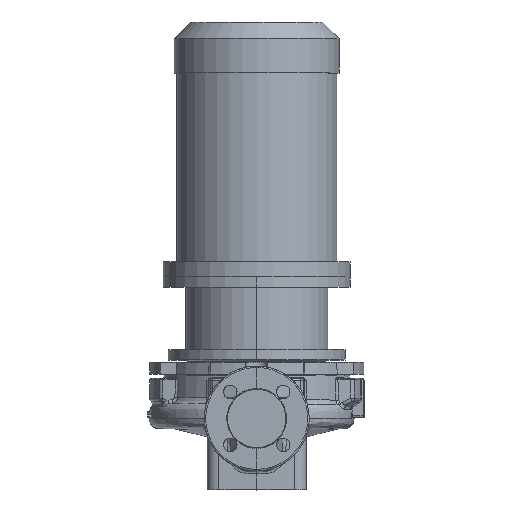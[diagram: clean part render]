
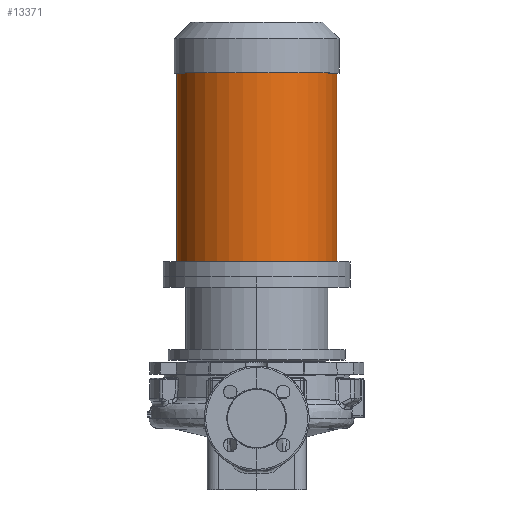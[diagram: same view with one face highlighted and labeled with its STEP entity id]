
A CAD part, top view. The second image highlights one B-rep face of the part: STEP entity #13371.
In plain terms, the highlighted cylindrical face has radius 107 mm (diameter 214 mm), a partial arc.
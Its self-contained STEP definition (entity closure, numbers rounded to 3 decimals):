
#708 = VERTEX_POINT ( 'NONE', #11556 ) ;
#830 = VECTOR ( 'NONE', #43181, 1000. ) ;
#2322 = AXIS2_PLACEMENT_3D ( 'NONE', #28733, #48330, #18773 ) ;
#10402 = CYLINDRICAL_SURFACE ( 'NONE', #43451, 107. ) ;
#10883 = EDGE_CURVE ( 'NONE', #25195, #22002, #26169, .T. ) ;
#11556 = CARTESIAN_POINT ( 'NONE',  ( -107., 209.3, 0. ) ) ;
#13371 = ADVANCED_FACE ( 'NONE', ( #39018 ), #10402, .T. ) ;
#15036 = ORIENTED_EDGE ( 'NONE', *, *, #19185, .T. ) ;
#17464 = CARTESIAN_POINT ( 'NONE',  ( 0., 209.3, 0. ) ) ;
#18679 = CARTESIAN_POINT ( 'NONE',  ( 0., 189.3, 0. ) ) ;
#18773 = DIRECTION ( 'NONE',  ( -1., 0., 0. ) ) ;
#19185 = EDGE_CURVE ( 'NONE', #22002, #708, #27871, .T. ) ;
#22002 = VERTEX_POINT ( 'NONE', #52675 ) ;
#24985 = CARTESIAN_POINT ( 'NONE',  ( 107., 189.3, 0. ) ) ;
#25160 = EDGE_CURVE ( 'NONE', #25195, #40559, #57714, .T. ) ;
#25195 = VERTEX_POINT ( 'NONE', #31235 ) ;
#26169 = CIRCLE ( 'NONE', #2322, 107. ) ;
#26819 = VECTOR ( 'NONE', #49787, 1000. ) ;
#27871 = LINE ( 'NONE', #53070, #830 ) ;
#28065 = DIRECTION ( 'NONE',  ( 0., -1., 0. ) ) ;
#28733 = CARTESIAN_POINT ( 'NONE',  ( 0., 461.3, 0. ) ) ;
#29902 = DIRECTION ( 'NONE',  ( 0., -1., 0. ) ) ;
#31235 = CARTESIAN_POINT ( 'NONE',  ( 107., 461.3, 0. ) ) ;
#38961 = DIRECTION ( 'NONE',  ( -1., 0., 0. ) ) ;
#39018 = FACE_OUTER_BOUND ( 'NONE', #43634, .T. ) ;
#40559 = VERTEX_POINT ( 'NONE', #51163 ) ;
#41922 = AXIS2_PLACEMENT_3D ( 'NONE', #17464, #28065, #56684 ) ;
#43181 = DIRECTION ( 'NONE',  ( 0., -1., 0. ) ) ;
#43451 = AXIS2_PLACEMENT_3D ( 'NONE', #18679, #29902, #38961 ) ;
#43634 = EDGE_LOOP ( 'NONE', ( #63402, #54291, #15036, #62630 ) ) ;
#44720 = CIRCLE ( 'NONE', #41922, 107. ) ;
#47937 = EDGE_CURVE ( 'NONE', #40559, #708, #44720, .T. ) ;
#48330 = DIRECTION ( 'NONE',  ( 0., -1., 0. ) ) ;
#49787 = DIRECTION ( 'NONE',  ( 0., -1., 0. ) ) ;
#51163 = CARTESIAN_POINT ( 'NONE',  ( 107., 209.3, 0. ) ) ;
#52675 = CARTESIAN_POINT ( 'NONE',  ( -107., 461.3, 0. ) ) ;
#53070 = CARTESIAN_POINT ( 'NONE',  ( -107., 189.3, 0. ) ) ;
#54291 = ORIENTED_EDGE ( 'NONE', *, *, #10883, .T. ) ;
#56684 = DIRECTION ( 'NONE',  ( -1., 0., 0. ) ) ;
#57714 = LINE ( 'NONE', #24985, #26819 ) ;
#62630 = ORIENTED_EDGE ( 'NONE', *, *, #47937, .F. ) ;
#63402 = ORIENTED_EDGE ( 'NONE', *, *, #25160, .F. ) ;
